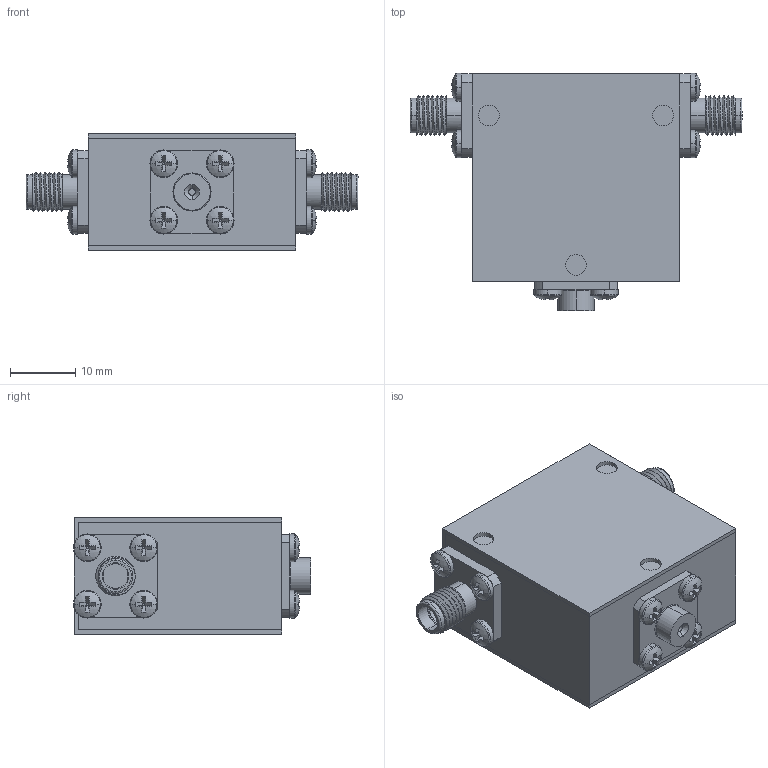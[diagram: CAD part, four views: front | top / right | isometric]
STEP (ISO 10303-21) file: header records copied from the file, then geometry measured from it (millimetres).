
FILE_DESCRIPTION (( 'STEP AP214' ), '1' );
FILE_NAME ('Package 2 Iso FF.step', '2021-12-01T20:59:24', ( '' ), ( '' ), 'SwSTEP 2.0', 'SolidWorks 2016', '' );
FILE_SCHEMA (( 'AUTOMOTIVE_DESIGN' ));
Length unit declared in the file: inch
Products named in the file (6): pan cross head_ai_CR-PHMS 0.086-56x0.125x0.125-N; Package 2; 030013-1A; Delta SMA-Female 0.500 flange Threaded; Package Size 2; Package 2 Iso FF
Assembly tree (17 placements, depth 2):
  Package 2 Iso FF
    Package Size 2
    Package 2
    Delta SMA-Female 0.500 flange Threaded  x2
    030013-1A
    pan cross head_ai_CR-PHMS 0.086-56x0.125x0.125-N  x12
Bounding box: 50.8 x 36.28 x 17.78 mm (x, y, z)
Volume: 19039.8 mm3; surface area: 11859.8 mm2
Topology: 17 solids, 17 shells, 414 faces, 942 edges, 582 vertices
Faces by surface type: plane 228, cylinder 122, torus 30, sphere 24, bspline 6, cone 4
Entity records: 4765 total; most frequent: CARTESIAN_POINT 1369, DIRECTION 717, ORIENTED_EDGE 594, EDGE_CURVE 297, AXIS2_PLACEMENT_3D 289, VERTEX_POINT 191, EDGE_LOOP 160, CIRCLE 150
